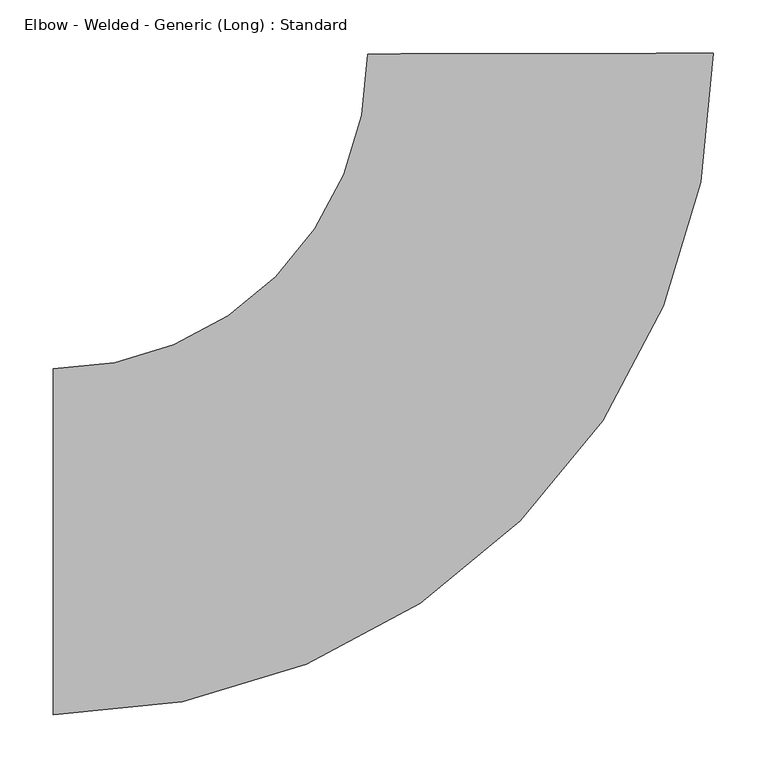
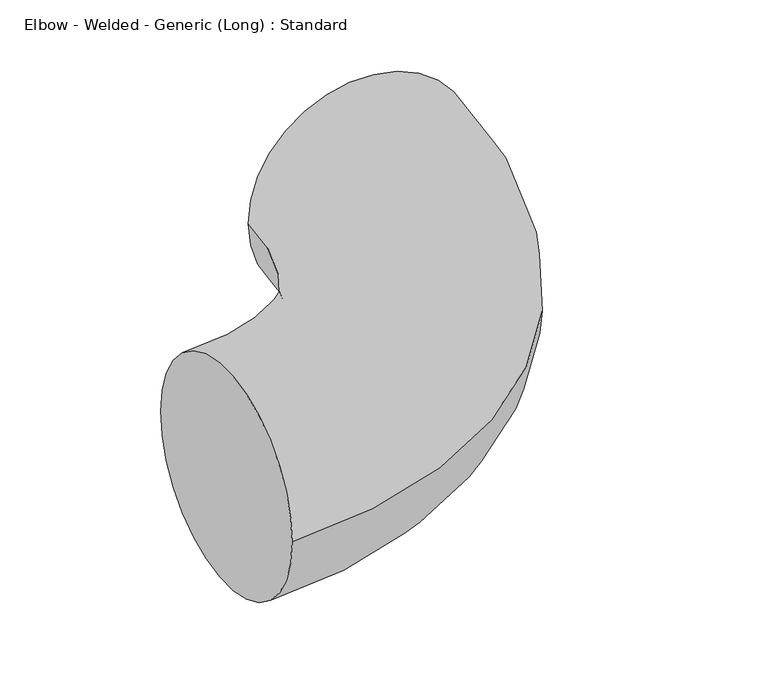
"""IFC4 building model written with IfcOpenShell, lengths in millimetres: pipe fitting geometry, Elbow - Welded - Generic (Long) : Standard."""

from ifc_helpers import new_model, si_unit, point, frame, origin, place, context, project, spatial, circle_curve, ellipse_curve, trimmed, source, transform, mapped, element, save
from ifc_brep_helpers import plane_surface, revolved_surface, advanced_brep


def elbow_welded_generic_long_standard_1126f964(model_context):
    return source(origin(), model_context, "Body", "AdvancedBrep", [
        advanced_brep(
        [(-457.2, -161.925, 0.0), (-457.2, 161.925, 0.0), (161.0555505, 457.5070002, 0.0), (-162.7938643, 456.8913474, 0.0)],
        [
            (0, 1, circle_curve(frame((-457.2, 0.0, 0.0), z_axis=(-1.0, 0.0, 0.0), x_axis=(0.0, 1.0, 0.0)), 161.925)),
            (1, 0, circle_curve(frame((-457.2, 0.0, 0.0), z_axis=(-1.0, 0.0, 0.0), x_axis=(0.0, 1.0, 0.0)), 161.925)),
            (2, 3, circle_curve(frame((-0.8691569, 457.1991738, 0.0), z_axis=(-0.0019010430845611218, 0.9999981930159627, 0.0), x_axis=(-0.9999981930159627, -0.0019010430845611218, 0.0)), 161.925)),
            (3, 2, circle_curve(frame((-0.8691569, 457.1991738, 0.0), z_axis=(-0.0019010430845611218, 0.9999981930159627, 0.0), x_axis=(-0.9999981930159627, -0.0019010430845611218, 0.0)), 161.925)),
            (3, 1, circle_curve(frame((-457.2, 456.3316677, 0.0), z_axis=(0.0, 0.0, -1.0), x_axis=(0.0, -1.0, 0.0)), 294.4066677)),
            (0, 2, circle_curve(frame((-457.2, 456.3316677, 0.0), z_axis=(0.0, 0.0, 1.0), x_axis=(0.0, -1.0, 0.0)), 618.2566677)),
        ],
        [
            plane_surface(frame((-457.2, 0.0, 0.0), z_axis=(-1.0, 0.0, 0.0), x_axis=(0.0, 0.0, 1.0))),
            plane_surface(frame((-0.8691569, 457.1991738, 0.0), z_axis=(-0.001901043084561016, 0.9999981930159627, 0.0), x_axis=(0.0, 0.0, 1.0))),
            revolved_surface(trimmed(ellipse_curve(frame((-457.2, 0.0, 0.0), z_axis=(-1.0, 0.0, 0.0), x_axis=(0.0, 1.0, 0.0)), 161.925, 161.925), [point((-457.2, -161.925, 0.0))], [point((-457.2, 161.925, 0.0))], True, "CARTESIAN"), (-457.2, 456.3316677, 0.0), (0.0, 0.0, 1.0)),
            revolved_surface(trimmed(ellipse_curve(frame((-457.2, 0.0, 0.0), z_axis=(-1.0, 0.0, 0.0), x_axis=(0.0, 1.0, 0.0)), 161.925, 161.925), [point((-457.2, 161.925, 0.0))], [point((-457.2, -161.925, 0.0))], True, "CARTESIAN"), (-457.2, 456.3316677, 0.0), (0.0, 0.0, 1.0)),
        ],
        [
            (0, [[1, 2]]),
            (1, [[3, 4]]),
            (2, [[5, -1, 6, -4]]),
            (3, [[-6, -2, -5, -3]]),
        ],
    ),
    ])


if __name__ == "__main__":
    model = new_model("IFC4")
    model_context = context("Model", 3, world=origin())
    ifc_project = project(units=[si_unit("LENGTHUNIT", "METRE", prefix="MILLI")], contexts=[model_context])
    site = spatial("IfcSite", under=ifc_project)
    building = spatial("IfcBuilding", under=site)
    placement = place(None, origin())
    elbow_welded_generic_long_standard_shape = elbow_welded_generic_long_standard_1126f964(model_context)
    element("IfcPipeFitting", 1, ObjectType="Elbow - Welded - Generic (Long) : Standard", at=placement, inside=building, context=model_context, shape_type="MappedRepresentation", body=[
        mapped(elbow_welded_generic_long_standard_shape, transform((0.0, 0.0, 0.0), x_axis=(1.0, 0.0, 0.0), y_axis=(0.0, 1.0, 0.0), z_axis=(0.0, 0.0, 1.0))),
    ])
    save(model, "model.ifc")
